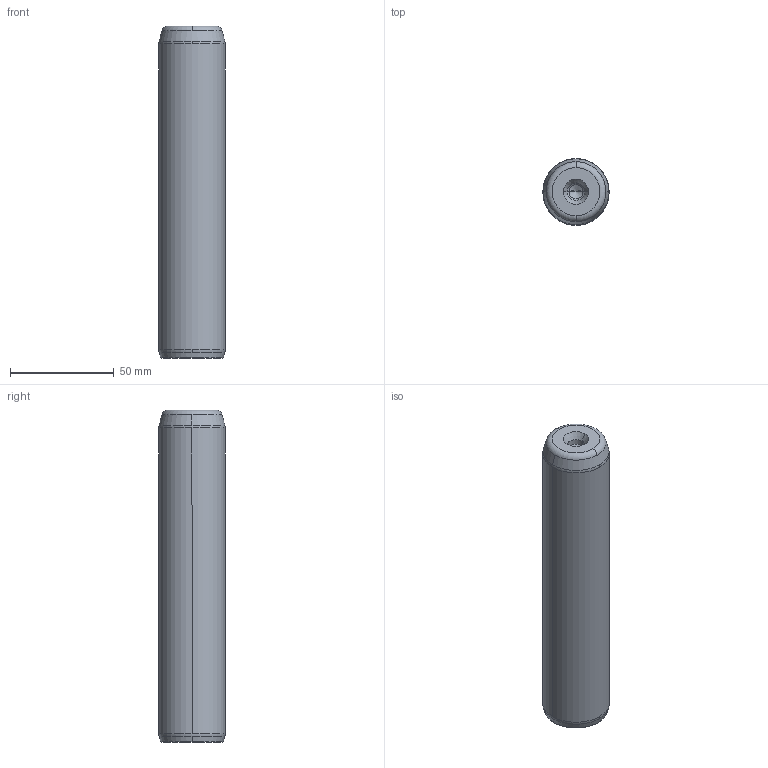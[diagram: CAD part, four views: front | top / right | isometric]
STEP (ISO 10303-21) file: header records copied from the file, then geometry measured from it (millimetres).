
FILE_DESCRIPTION((''),'2;1');
FILE_NAME('P10_032_160.stp','2008-12-23T15:03:43',(''),(''),'Mechanical Desktop 2009','Mechanical Desktop 2009',', , ');
FILE_SCHEMA(('CONFIG_CONTROL_DESIGN'));
Length unit declared in the file: millimetre
Products named in the file (5): Product; ProductAA; blmdl1; ProductA; blmdl1A
Assembly tree (2 placements, depth 3):
  Product
    ProductAA
      blmdl1
  ProductA
  blmdl1A
Bounding box: 32 x 32 x 160 mm (x, y, z)
Volume: 126455 mm3; surface area: 17840.8 mm2
Topology: 1 solids, 1 shells, 26 faces, 66 edges, 41 vertices
Faces by surface type: cone 10, torus 8, cylinder 6, plane 2
Entity records: 1012 total; most frequent: DIRECTION 170, CARTESIAN_POINT 134, ORIENTED_EDGE 128, AXIS2_PLACEMENT_3D 77, EDGE_CURVE 64, CIRCLE 48, VERTEX_POINT 41, EDGE_LOOP 27
